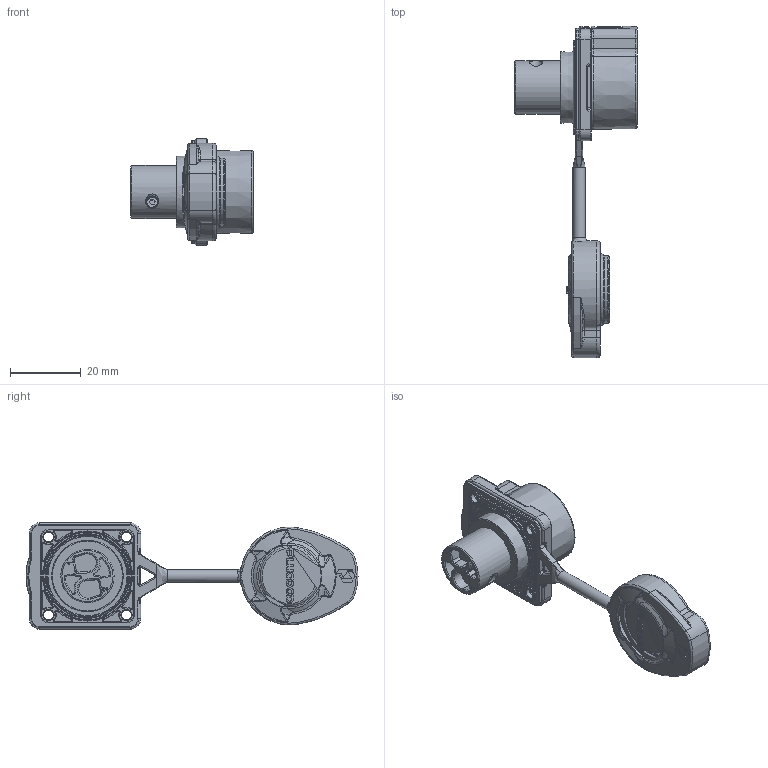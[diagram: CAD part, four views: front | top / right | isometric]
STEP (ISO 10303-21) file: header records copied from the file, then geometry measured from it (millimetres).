
FILE_DESCRIPTION (( 'STEP AP203' ), '1' );
FILE_NAME ('PLG20 2芯锁螺丝四孔插座.STEP', '2025-03-20T06:25:47', ( '' ), ( '' ), 'SwSTEP 2.0', 'SolidWorks 2024', '' );
FILE_SCHEMA (( 'CONFIG_CONTROL_DESIGN' ));
Length unit declared in the file: millimetre
Products named in the file (1): PLG20 2芯锁螺丝四孔插座
Bounding box: 34.5 x 93.64 x 30 mm (x, y, z)
Volume: 14498.1 mm3; surface area: 12436.1 mm2
Topology: 6 solids, 15 shells, 1286 faces, 3164 edges, 1949 vertices
Faces by surface type: plane 351, cylinder 343, bspline 293, torus 222, cone 67, sphere 10
Full cylindrical faces by diameter (mm): 1.061 x1, 2.088 x1, 2.8 x4, 3.3 x4, 3.4 x2, 3.5 x1, 3.7 x2, 4.6 x4, 4.65 x4, 6 x4, 15 x1, 16.5 x1, 19.1 x4, 22.3 x1, 23.5 x1, 25 x1
Entity records: 55809 total; most frequent: CARTESIAN_POINT 28318, ORIENTED_EDGE 6080, DIRECTION 5080, EDGE_CURVE 3040, AXIS2_PLACEMENT_3D 2027, VERTEX_POINT 1920, EDGE_LOOP 1446, FACE_OUTER_BOUND 1343
